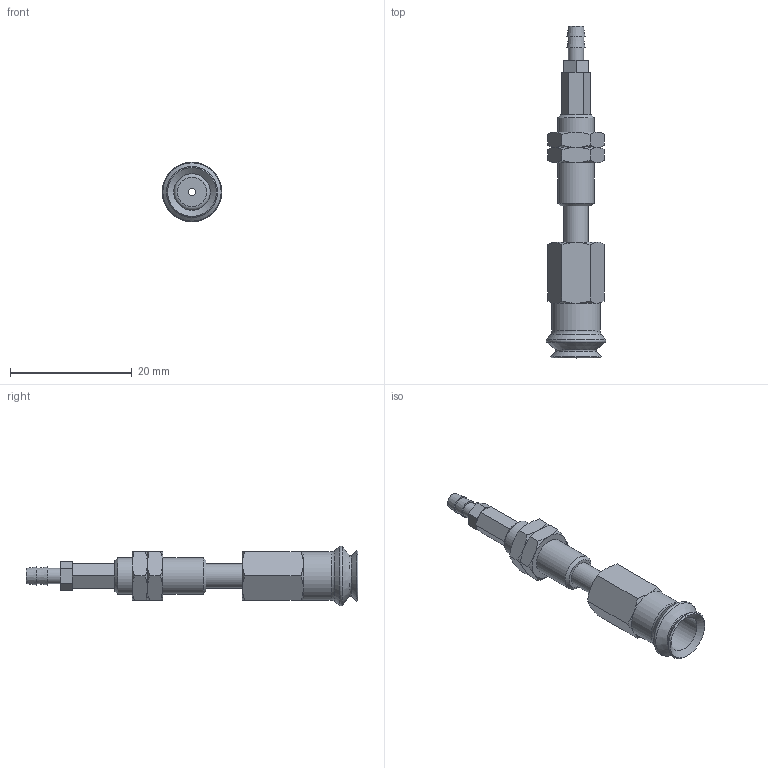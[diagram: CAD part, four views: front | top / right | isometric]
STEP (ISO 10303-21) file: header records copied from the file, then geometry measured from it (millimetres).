
FILE_DESCRIPTION(('STEP AP203'),'1');
FILE_NAME('-T.stp','2025-08-27T07:24:23',(' '),(' '),'Spatial InterOp 3D',' ',' ');
FILE_SCHEMA(('CONFIG_CONTROL_DESIGN'));
Length unit declared in the file: millimetre
Products named in the file (7): BNABPJTS-8-6-※-T; ADAPTER; NAPCTS-7-6-MBODY; NUT-NAPJ-8-6-s; NAPJTS-8-6-FBODY; BPJG-8-※; T (2)
Assembly tree (7 placements, depth 2):
  BNABPJTS-8-6-※-T
    ADAPTER
    NAPCTS-7-6-MBODY
    NUT-NAPJ-8-6-s  x2
    NAPJTS-8-6-FBODY
    BPJG-8-※
    T (2)
Bounding box: 9.8 x 54.6 x 9.8 mm (x, y, z)
Volume: 1632.5 mm3; surface area: 2498.2 mm2
Topology: 7 solids, 7 shells, 132 faces, 274 edges, 163 vertices
Faces by surface type: plane 57, cone 52, cylinder 16, torus 7
Full cylindrical faces by diameter (mm): 1.2 x3, 2.459 x1, 2.5 x1, 3 x1, 4 x4, 5.188 x2, 6 x3, 8 x1
Entity records: 3160 total; most frequent: CARTESIAN_POINT 695, DIRECTION 450, ORIENTED_EDGE 368, AXIS2_PLACEMENT_3D 198, EDGE_CURVE 184, EDGE_LOOP 163, FACE_OUTER_BOUND 131, VERTEX_POINT 129
